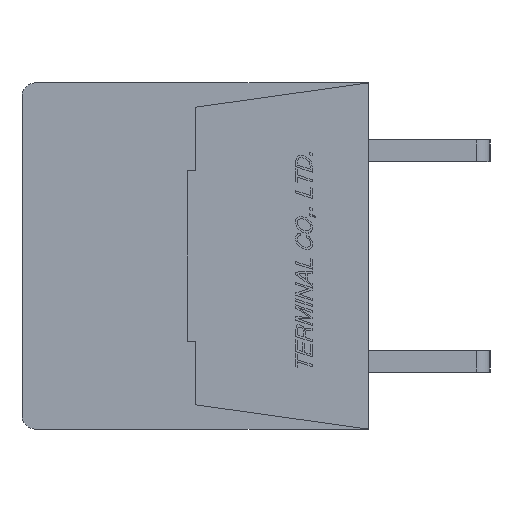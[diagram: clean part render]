
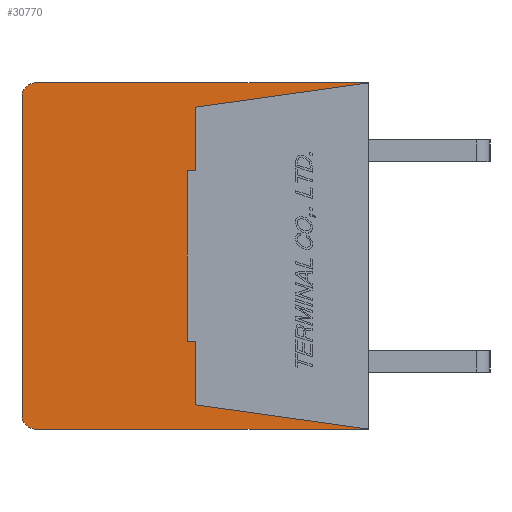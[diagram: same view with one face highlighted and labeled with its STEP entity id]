
A CAD part, left-side view. The second image highlights one B-rep face of the part: STEP entity #30770.
In plain terms, the highlighted planar face has unit normal (-1, 0, 0).
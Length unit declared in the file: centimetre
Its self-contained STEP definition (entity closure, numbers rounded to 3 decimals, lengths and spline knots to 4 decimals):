
#1577=CIRCLE('',#52609,0.05);
#1578=CIRCLE('',#52612,0.05);
#2770=VERTEX_POINT('',#42875);
#2771=VERTEX_POINT('',#42877);
#2772=VERTEX_POINT('',#42881);
#2773=VERTEX_POINT('',#42885);
#2774=VERTEX_POINT('',#42889);
#2775=VERTEX_POINT('',#42893);
#2776=VERTEX_POINT('',#42897);
#2777=VERTEX_POINT('',#42899);
#2778=VERTEX_POINT('',#42901);
#2779=VERTEX_POINT('',#42903);
#2780=VERTEX_POINT('',#42905);
#2781=VERTEX_POINT('',#42907);
#6035=VECTOR('',#35678,1.);
#6039=VECTOR('',#35687,1.);
#6042=VECTOR('',#35695,1.);
#6043=VECTOR('',#35697,1.);
#6044=VECTOR('',#35698,1.);
#6045=VECTOR('',#35699,1.);
#6046=VECTOR('',#35700,1.);
#6047=VECTOR('',#35701,1.);
#6048=VECTOR('',#35702,1.);
#6049=VECTOR('',#35703,1.);
#9654=LINE('',#42876,#6035);
#9658=LINE('',#42886,#6039);
#9661=LINE('',#42894,#6042);
#9662=LINE('',#42896,#6043);
#9663=LINE('',#42898,#6044);
#9664=LINE('',#42900,#6045);
#9665=LINE('',#42902,#6046);
#9666=LINE('',#42904,#6047);
#9667=LINE('',#42906,#6048);
#9668=LINE('',#42908,#6049);
#13695=EDGE_CURVE('',#2771,#2770,#9654,.T.);
#13698=EDGE_CURVE('',#2772,#2770,#1577,.T.);
#13700=EDGE_CURVE('',#2772,#2773,#9658,.T.);
#13702=EDGE_CURVE('',#2774,#2773,#1578,.T.);
#13704=EDGE_CURVE('',#2774,#2775,#9661,.T.);
#13705=EDGE_CURVE('',#2776,#2771,#9662,.T.);
#13706=EDGE_CURVE('',#2775,#2777,#9663,.T.);
#13707=EDGE_CURVE('',#2777,#2778,#9664,.T.);
#13708=EDGE_CURVE('',#2778,#2779,#9665,.T.);
#13709=EDGE_CURVE('',#2779,#2780,#9666,.T.);
#13710=EDGE_CURVE('',#2780,#2781,#9667,.T.);
#13711=EDGE_CURVE('',#2781,#2776,#9668,.T.);
#19993=ORIENTED_EDGE('',*,*,#13705,.T.);
#19994=ORIENTED_EDGE('',*,*,#13695,.T.);
#19995=ORIENTED_EDGE('',*,*,#13698,.F.);
#19996=ORIENTED_EDGE('',*,*,#13700,.T.);
#19997=ORIENTED_EDGE('',*,*,#13702,.F.);
#19998=ORIENTED_EDGE('',*,*,#13704,.T.);
#19999=ORIENTED_EDGE('',*,*,#13706,.T.);
#20000=ORIENTED_EDGE('',*,*,#13707,.T.);
#20001=ORIENTED_EDGE('',*,*,#13708,.T.);
#20002=ORIENTED_EDGE('',*,*,#13709,.T.);
#20003=ORIENTED_EDGE('',*,*,#13710,.T.);
#20004=ORIENTED_EDGE('',*,*,#13711,.T.);
#26806=EDGE_LOOP('',(#19993,#19994,#19995,#19996,#19997,#19998,#19999,#20000,
#20001,#20002,#20003,#20004));
#28831=FACE_BOUND('',#26806,.T.);
#30770=ADVANCED_FACE('',(#28831),#32437,.F.);
#32437=PLANE('',#52614);
#35678=DIRECTION('',(0.,1.,0.));
#35683=DIRECTION('',(1.,0.,0.));
#35684=DIRECTION('',(0.,0.,-0.05));
#35687=DIRECTION('',(0.,0.,-1.));
#35691=DIRECTION('',(1.,0.,0.));
#35692=DIRECTION('',(0.,0.,-0.05));
#35695=DIRECTION('',(0.,-1.,0.));
#35696=DIRECTION('',(1.,0.,0.));
#35697=DIRECTION('',(0.,-0.99,0.139));
#35698=DIRECTION('',(0.,0.99,0.139));
#35699=DIRECTION('',(0.,0.,1.));
#35700=DIRECTION('',(0.,1.,0.));
#35701=DIRECTION('',(0.,0.,1.));
#35702=DIRECTION('',(0.,-1.,0.));
#35703=DIRECTION('',(0.,0.,1.));
#42875=CARTESIAN_POINT('',(-1.,1.23,0.64));
#42876=CARTESIAN_POINT('',(-1.,0.,0.64));
#42877=CARTESIAN_POINT('',(-1.,0.,0.64));
#42881=CARTESIAN_POINT('',(-1.,1.28,0.59));
#42882=CARTESIAN_POINT('',(-1.,1.23,0.59));
#42885=CARTESIAN_POINT('',(-1.,1.28,-0.59));
#42886=CARTESIAN_POINT('',(-1.,1.28,0.59));
#42889=CARTESIAN_POINT('',(-1.,1.23,-0.64));
#42890=CARTESIAN_POINT('',(-1.,1.23,-0.59));
#42893=CARTESIAN_POINT('',(-1.,0.,-0.64));
#42894=CARTESIAN_POINT('',(-1.,1.23,-0.64));
#42895=CARTESIAN_POINT('',(-1.,0.6345,0.));
#42896=CARTESIAN_POINT('',(-1.,0.64,0.55));
#42897=CARTESIAN_POINT('',(-1.,0.64,0.55));
#42898=CARTESIAN_POINT('',(-1.,0.,-0.64));
#42899=CARTESIAN_POINT('',(-1.,0.64,-0.55));
#42900=CARTESIAN_POINT('',(-1.,0.64,-0.55));
#42901=CARTESIAN_POINT('',(-1.,0.64,-0.315));
#42902=CARTESIAN_POINT('',(-1.,0.64,-0.315));
#42903=CARTESIAN_POINT('',(-1.,0.67,-0.315));
#42904=CARTESIAN_POINT('',(-1.,0.67,-0.315));
#42905=CARTESIAN_POINT('',(-1.,0.67,0.315));
#42906=CARTESIAN_POINT('',(-1.,0.67,0.315));
#42907=CARTESIAN_POINT('',(-1.,0.64,0.315));
#42908=CARTESIAN_POINT('',(-1.,0.64,0.315));
#52609=AXIS2_PLACEMENT_3D('',#42882,#35683,#35684);
#52612=AXIS2_PLACEMENT_3D('',#42890,#35691,#35692);
#52614=AXIS2_PLACEMENT_3D('',#42895,#35696,$);
